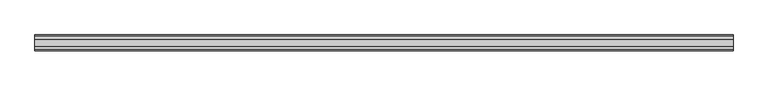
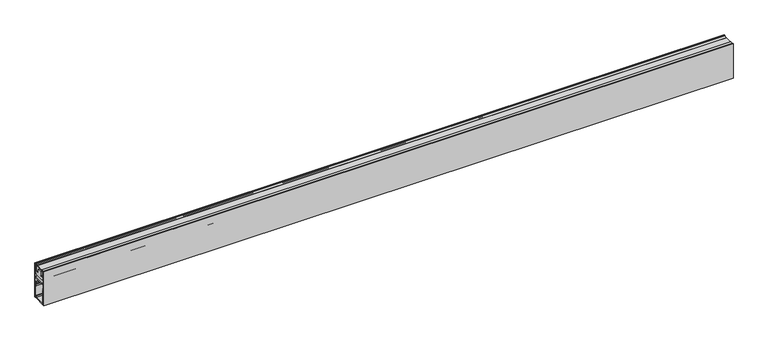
"""IFC4 building model written with IfcOpenShell, lengths in millimetres: light fixture geometry, SF-LI-SL : 5-175-80-3500."""

import ifcopenshell
import ifcopenshell.guid

model = None  # the IFC model being written
_history = None  # IfcOwnerHistory: only IFC2X3 demands one
_inside = {}  # id of a spatial element -> (the spatial element, [elements in it])
_under = {}  # id of a project, library or spatial element -> (it, [spatial elements below it])
_declared = {}  # id of a project -> (the project, [libraries it declares])
_typed = {}  # id of a type object -> (the type object, [elements of that type])
_made_of = {}  # id of a material, layer set ... -> (it, [elements and type objects made of it])


def new_model(schema):
    """Start an empty IFC model of exactly this schema.

    Asked for "IFC4X3", IfcOpenShell would pick the latest addendum, in which some entities
    have other attributes; the version numbers below select the first issue.
    IFC2X3 requires an IfcOwnerHistory on every rooted entity: one is made here for all.
    """
    global model, _history
    if schema == "IFC4X3":
        model = ifcopenshell.file(schema_version=(4, 3, 0, 0))
    else:
        model = ifcopenshell.file(schema=schema)
    _inside.clear()
    _under.clear()
    _declared.clear()
    _typed.clear()
    _made_of.clear()
    _history = None
    if model.schema == "IFC2X3":
        org = make("IfcOrganization", Name="unknown")
        user = make(
            "IfcPersonAndOrganization",
            ThePerson=make("IfcPerson", FamilyName="unknown"),
            TheOrganization=org,
        )
        app = make(
            "IfcApplication",
            ApplicationDeveloper=org,
            Version="unknown",
            ApplicationFullName="unknown",
            ApplicationIdentifier="unknown",
        )
        _history = make(
            "IfcOwnerHistory",
            OwningUser=user,
            OwningApplication=app,
            ChangeAction="ADDED",
            CreationDate=0,
        )
    return model


def make(cls, **values):
    """One entity of the class cls with the attributes given. An attribute that is None is left unset."""
    return model.create_entity(
        cls, **{name: value for name, value in values.items() if value is not None}
    )


def rooted(cls, **values):
    """An entity with a GlobalId (a new one), such as an element, a storey or a relation."""
    return make(cls, GlobalId=ifcopenshell.guid.new(), OwnerHistory=_history, **values)


def si_unit(unit_type, name, prefix=None):
    """IfcSIUnit, for example si_unit("LENGTHUNIT", "METRE", prefix="MILLI")."""
    return make("IfcSIUnit", UnitType=unit_type, Prefix=prefix, Name=name)


def assignment(units):
    """IfcUnitAssignment: the units of a project."""
    return None if units is None else make("IfcUnitAssignment", Units=units)


def point(xyz):
    """IfcCartesianPoint."""
    return None if xyz is None else make("IfcCartesianPoint", Coordinates=xyz)


def direction(xyz):
    """IfcDirection."""
    return None if xyz is None else make("IfcDirection", DirectionRatios=xyz)


def frame(location, z_axis=None, x_axis=None):
    """IfcAxis2Placement3D, a coordinate frame: its origin and axes. An axis left out is left unset."""
    return make(
        "IfcAxis2Placement3D",
        Location=point(location),
        Axis=direction(z_axis),
        RefDirection=direction(x_axis),
    )


def frame_2d(location, x_axis=None):
    """IfcAxis2Placement2D, a coordinate frame in the plane: its origin and x axis."""
    return make(
        "IfcAxis2Placement2D", Location=point(location), RefDirection=direction(x_axis)
    )


def origin():
    """The frame at (0, 0, 0) with its axes left unset."""
    return frame((0.0, 0.0, 0.0))


def place(relative_to, where):
    """IfcLocalPlacement: puts the frame where relative to a parent placement (None: the world)."""
    return make(
        "IfcLocalPlacement", PlacementRelTo=relative_to, RelativePlacement=where
    )


def context(
    kind, dimensions, precision=None, world=None, true_north=None, identifier=None
):
    """IfcGeometricRepresentationContext, for example the 3D "Model" context."""
    return make(
        "IfcGeometricRepresentationContext",
        ContextIdentifier=identifier,
        ContextType=kind,
        CoordinateSpaceDimension=dimensions,
        Precision=precision,
        WorldCoordinateSystem=world,
        TrueNorth=true_north,
    )


def project(units=None, contexts=None):
    """IfcProject with its units and contexts."""
    return rooted(
        "IfcProject",
        Name="project",
        RepresentationContexts=contexts,
        UnitsInContext=assignment(units),
    )


def spatial(cls, under=None, at=None, **own):
    """A site, building, storey or space (cls), placed at a placement, below another one or the project."""
    s = rooted(cls, ObjectPlacement=at, **own)
    if under is not None:
        _under.setdefault(under.id(), (under, []))[1].append(s)
    return s


def polyline(points):
    """IfcPolyline through the points."""
    return make("IfcPolyline", Points=[point(p) for p in points])


def circle_curve(where, radius):
    """IfcCircle in the frame where."""
    return make("IfcCircle", Position=where, Radius=radius)


def trimmed(basis, trim1, trim2, sense, master):
    """IfcTrimmedCurve: the piece of a basis curve between two trims."""
    return make(
        "IfcTrimmedCurve",
        BasisCurve=basis,
        Trim1=trim1,
        Trim2=trim2,
        SenseAgreement=sense,
        MasterRepresentation=master,
    )


def segment(curve, same_sense, transition):
    """IfcCompositeCurveSegment."""
    return make(
        "IfcCompositeCurveSegment",
        Transition=transition,
        SameSense=same_sense,
        ParentCurve=curve,
    )


def composite_curve(segments, self_intersect=None):
    """IfcCompositeCurve: segments joined end to end."""
    return make("IfcCompositeCurve", Segments=segments, SelfIntersect=self_intersect)


def outline(outer, holes=None, kind="AREA"):
    """IfcArbitraryClosedProfileDef: a profile drawn as a closed curve; with holes, ...WithVoids."""
    if holes is None:
        return make("IfcArbitraryClosedProfileDef", ProfileType=kind, OuterCurve=outer)
    return make(
        "IfcArbitraryProfileDefWithVoids",
        ProfileType=kind,
        OuterCurve=outer,
        InnerCurves=holes,
    )


def extrude(swept, where, along, depth):
    """IfcExtrudedAreaSolid: the profile swept, set in the frame where, extruded along a direction by depth."""
    return make(
        "IfcExtrudedAreaSolid",
        SweptArea=swept,
        Position=where,
        ExtrudedDirection=direction(along),
        Depth=depth,
    )


def shape(context_of_items, identifier, shape_type, items):
    """IfcShapeRepresentation: the items that make up one representation, for example the "Body"."""
    return make(
        "IfcShapeRepresentation",
        ContextOfItems=context_of_items,
        RepresentationIdentifier=identifier,
        RepresentationType=shape_type,
        Items=items,
    )


def source(mapping_origin, context_of_items, identifier, shape_type, items):
    """IfcRepresentationMap: a shape defined once, which mapped items show again and again."""
    return make(
        "IfcRepresentationMap",
        MappingOrigin=mapping_origin,
        MappedRepresentation=shape(context_of_items, identifier, shape_type, items),
    )


def transform(
    local_origin,
    x_axis=None,
    y_axis=None,
    z_axis=None,
    scale=None,
    scale2=None,
    scale3=None,
    uniform=True,
):
    """IfcCartesianTransformationOperator3D, or its non-uniform kind. x_axis, y_axis, z_axis: its Axis1, 2, 3."""
    if uniform:
        return make(
            "IfcCartesianTransformationOperator3D",
            Axis1=direction(x_axis),
            Axis2=direction(y_axis),
            LocalOrigin=point(local_origin),
            Scale=scale,
            Axis3=direction(z_axis),
        )
    return make(
        "IfcCartesianTransformationOperator3DnonUniform",
        Axis1=direction(x_axis),
        Axis2=direction(y_axis),
        LocalOrigin=point(local_origin),
        Scale=scale,
        Axis3=direction(z_axis),
        Scale2=scale2,
        Scale3=scale3,
    )


def mapped(mapping_source, mapping_target):
    """IfcMappedItem: shows the shape of a source again, moved by a transform."""
    return make(
        "IfcMappedItem", MappingSource=mapping_source, MappingTarget=mapping_target
    )


def made_of(thing, what):
    """Note that an element or type object is made of a material, layer set ...; save() writes the relation."""
    if what is not None:
        _made_of.setdefault(what.id(), (what, []))[1].append(thing)
    return thing


def element(
    cls,
    number,
    at=None,
    inside=None,
    cuts=None,
    type_object=None,
    material=None,
    context=None,
    identifier="Body",
    shape_type=None,
    held_by="IfcProductDefinitionShape",
    body=None,
    shapes=None,
    **own,
):
    """One element of the class cls, such as IfcWall. Its Tag is "e" and its number.

    at: its placement. inside: the storey or other place that contains it. cuts: it is an
    opening in that element (IfcRelVoidsElement). A single representation is given by context,
    identifier, shape_type and body (its items); several are given by shapes. held_by: the class
    of the entity that holds the representations. save() writes the other relations.
    """
    e = rooted(cls, Tag="e%d" % number, ObjectPlacement=at, **own)
    if body is not None:
        shapes = [shape(context, identifier, shape_type, body)]
    if shapes is not None:
        e.Representation = make(held_by, Representations=shapes)
    if inside is not None:
        _inside.setdefault(inside.id(), (inside, []))[1].append(e)
    if cuts is not None:
        rooted(
            "IfcRelVoidsElement", RelatingBuildingElement=cuts, RelatedOpeningElement=e
        )
    if type_object is not None:
        _typed.setdefault(type_object.id(), (type_object, []))[1].append(e)
    return made_of(e, material)


def aggregate(whole, parts):
    """IfcRelAggregates: a whole, such as a stair, and the parts it consists of."""
    return rooted("IfcRelAggregates", RelatingObject=whole, RelatedObjects=parts)


def save(model, path):
    """Write the relations noted so far, then the file.

    IfcRelAggregates (storeys below a building ...), IfcRelContainedInSpatialStructure (elements
    in a storey), IfcRelDefinesByType, IfcRelAssociatesMaterial and IfcRelDeclares: one each for
    every whole, place, type object, material and project.
    """
    for whole, parts in _under.values():
        aggregate(whole, parts)
    for where, things in _inside.values():
        rooted(
            "IfcRelContainedInSpatialStructure",
            RelatedElements=things,
            RelatingStructure=where,
        )
    for kind, things in _typed.values():
        rooted("IfcRelDefinesByType", RelatedObjects=things, RelatingType=kind)
    for what, things in _made_of.values():
        rooted("IfcRelAssociatesMaterial", RelatedObjects=things, RelatingMaterial=what)
    for by, libraries in _declared.values():
        rooted("IfcRelDeclares", RelatingContext=by, RelatedDefinitions=libraries)
    model.write(path)


def light_fixture_92b9d01c(model_context):
    return source(origin(), model_context, "Body", "SweptSolid", [
        extrude(outline(polyline([(16.4919982, -609.6), (16.4919982, -685.7997212), (14.4814042, -685.7997212), (14.4814042, -652.2511544), (11.3066494, -652.2511544), (11.3066494, -650.4868413), (14.4814042, -650.4868413), (14.4814042, -641.35007), (-14.4814042, -641.35007), (-14.4814042, -650.4868413), (-11.3066494, -650.4868413), (-11.3066494, -652.2511544), (-14.4814042, -652.2511544), (-14.4814042, -685.8), (-16.5273013, -685.8), (-16.5273013, -609.6), (-14.4814042, -609.6), (-14.4814042, -629.6378556), (-12.7179317, -629.6378556), (-12.7179317, -631.4374717), (-14.4814042, -631.4374717), (-14.4814042, -639.0570515), (14.4814042, -639.0570515), (14.4814042, -631.4374717), (12.6826286, -631.4374717), (12.6826286, -629.6378556), (14.4814042, -629.6378556), (14.4814042, -609.6), (16.4919982, -609.6)])), frame((-1454.15, 0.0, 0.0), z_axis=(1.0, 0.0, 0.0), x_axis=(0.0, 1.0, 0.0)), (0.0, 0.0, 1.0), 1454.15),
        extrude(outline(polyline([(0.0, 10.6630062), (0.0, -11.0499052), (-1454.15, -11.0499052), (-1454.15, 10.6630062), (0.0, 10.6630062)])), frame((0.0, 0.0, -612.2621783), z_axis=(0.0, 0.0, 1.0), x_axis=(1.0, 0.0, 0.0)), (0.0, 0.0, 1.0), 0.9853757),
        extrude(outline(composite_curve([segment(polyline([(14.2364085, -684.4823458), (14.2364085, -685.7515686), (-14.2013395, -685.7515686), (-14.2013395, -684.4823458), (-12.9681897, -684.4823458), (-12.9681897, -681.697718), (-14.2013395, -681.697718), (-14.2013395, -658.6298078)]), True, "CONTINUOUS"), segment(trimmed(circle_curve(frame_2d((-15.2677071, -657.498738)), 1.5544962), [point((-14.2013395, -658.6298078))], [point((-14.2013395, -656.3676683))], True, "CARTESIAN"), True, "CONTINUOUS"), segment(trimmed(circle_curve(frame_2d((-1.5482091, -655.9407284)), 12.6603312), [point((-14.2013395, -656.3676683))], [point((-13.8299858, -652.867953))], False, "CARTESIAN"), True, "CONTINUOUS"), segment(polyline([(-13.8299858, -652.867953), (-12.9281268, -652.867953), (-12.9281268, -655.8728)]), True, "CONTINUOUS"), segment(trimmed(circle_curve(frame_2d((-15.3387278, -657.4813245)), 2.8979905), [point((-12.9281268, -655.8728))], [point((-12.9289367, -659.0910622))], False, "CARTESIAN"), True, "CONTINUOUS"), segment(polyline([(-12.9289367, -659.0910622), (-12.9289367, -680.4290689), (-11.6993255, -680.4290689), (-11.6993255, -684.4823458), (11.6993255, -684.4823458), (11.6993255, -680.4290689), (12.9631957, -680.4290689), (12.9631957, -659.0898491)]), True, "CONTINUOUS"), segment(trimmed(circle_curve(frame_2d((15.3737968, -657.4813245)), 2.8979905), [point((12.9631957, -659.0898491))], [point((12.9631957, -655.8728))], False, "CARTESIAN"), True, "CONTINUOUS"), segment(polyline([(12.9631957, -655.8728), (12.9631957, -652.867953), (13.8650547, -652.867953)]), True, "CONTINUOUS"), segment(trimmed(circle_curve(frame_2d((1.583278, -655.9407284)), 12.6603312), [point((13.8650547, -652.867953))], [point((14.2364085, -656.3676683))], False, "CARTESIAN"), True, "CONTINUOUS"), segment(trimmed(circle_curve(frame_2d((15.302776, -657.498738)), 1.5544962), [point((14.2364085, -656.3676683))], [point((14.2364085, -658.6298078))], True, "CARTESIAN"), True, "CONTINUOUS"), segment(polyline([(14.2364085, -658.6298078), (14.2364085, -681.697718), (12.9681897, -681.697718), (12.9681897, -684.4823458), (14.2364085, -684.4823458)]), True, "CONTINUOUS")], self_intersect=False)), frame((-1454.15, 0.0, 0.0), z_axis=(1.0, 0.0, 0.0), x_axis=(0.0, 1.0, 0.0)), (0.0, 0.0, 1.0), 1454.15),
        extrude(outline(composite_curve([segment(polyline([(9.0340764, -631.9696124), (-8.9739288, -631.9696124)]), True, "CONTINUOUS"), segment(trimmed(circle_curve(frame_2d((-8.9739288, -629.5064147)), 2.4631976), [point((-8.9739288, -631.9696124))], [point((-11.4371264, -629.5064147))], False, "CARTESIAN"), True, "CONTINUOUS"), segment(polyline([(-11.4371264, -629.5064147), (-14.1822398, -629.5064147), (-14.1822398, -625.6350886), (-12.7747558, -625.6350886), (-12.7747558, -614.7258593), (-13.9553701, -614.7258593)]), True, "CONTINUOUS"), segment(trimmed(circle_curve(frame_2d((-13.2817026, -613.5643164)), 1.342762), [point((-13.9553701, -614.7258593))], [point((-13.9553701, -612.4027736))], False, "CARTESIAN"), True, "CONTINUOUS"), segment(polyline([(-13.9553701, -612.4027736), (-12.7747558, -612.4027736), (-12.7747558, -611.2771248), (-14.1822398, -611.2771248), (-14.1822398, -610.2915074), (-7.8128291, -610.2915074), (-7.8128291, -611.2768025), (-11.753768, -611.2768025), (-11.753768, -625.6345246), (-4.6456075, -625.6345246), (-4.6456075, -616.9778014), (4.7155426, -616.9778014), (4.7155426, -625.6345246), (11.753768, -625.6345246), (11.753768, -611.2768025), (7.8832476, -611.2768025), (7.8832476, -610.2915074), (14.1815952, -610.2915074), (14.1815952, -611.2769637), (12.7745141, -611.2769637), (12.7745141, -612.4027736), (13.9553701, -612.4027736)]), True, "CONTINUOUS"), segment(trimmed(circle_curve(frame_2d((13.2817026, -613.5643164)), 1.342762), [point((13.9553701, -612.4027736))], [point((13.9553701, -614.7258593))], False, "CARTESIAN"), True, "CONTINUOUS"), segment(polyline([(13.9553701, -614.7258593), (12.7745141, -614.7258593), (12.7745141, -625.6345246), (14.1815952, -625.6345246), (14.1815952, -629.5064147), (11.497274, -629.5064147)]), True, "CONTINUOUS"), segment(trimmed(circle_curve(frame_2d((9.0340764, -629.5064147)), 2.4631976), [point((11.497274, -629.5064147))], [point((9.0340764, -631.9696124))], False, "CARTESIAN"), True, "CONTINUOUS")], self_intersect=False)), frame((-1454.15, 0.0, 0.0), z_axis=(1.0, 0.0, 0.0), x_axis=(0.0, 1.0, 0.0)), (0.0, 0.0, 1.0), 1454.15),
    ])


if __name__ == "__main__":
    model = new_model("IFC4")
    model_context = context("Model", 3, world=origin())
    ifc_project = project(units=[si_unit("LENGTHUNIT", "METRE", prefix="MILLI")], contexts=[model_context])
    site = spatial("IfcSite", under=ifc_project)
    building = spatial("IfcBuilding", under=site)
    placement = place(None, origin())
    light_fixture_shape = light_fixture_92b9d01c(model_context)
    element("IfcLightFixture", 1, ObjectType="SF-LI-SL : 5-175-80-3500", at=placement, inside=building, context=model_context, shape_type="MappedRepresentation", body=[
        mapped(light_fixture_shape, transform((0.0, 0.0, 0.0), x_axis=(1.0, 0.0, 0.0), y_axis=(0.0, 1.0, 0.0), z_axis=(0.0, 0.0, 1.0))),
    ])
    save(model, "model.ifc")
